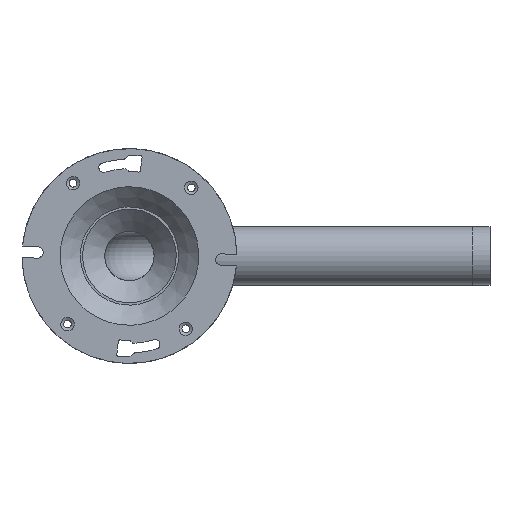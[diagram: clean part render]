
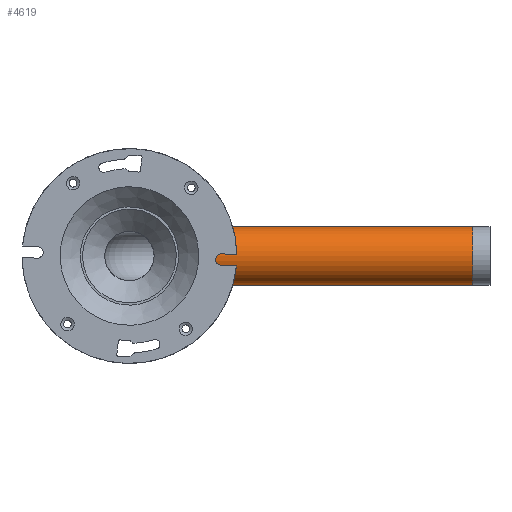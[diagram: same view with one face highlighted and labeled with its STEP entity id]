
A CAD part, front view. The second image highlights one B-rep face of the part: STEP entity #4619.
In plain terms, the highlighted cylindrical face has radius 24.13 mm (diameter 48.26 mm), a full revolution.
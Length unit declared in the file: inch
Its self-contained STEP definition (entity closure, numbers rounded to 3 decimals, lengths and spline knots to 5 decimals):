
#486=LINE('',#11796,#741);
#741=VECTOR('',#6554,0.95);
#898=CYLINDRICAL_SURFACE('',#5275,0.95);
#1157=FACE_OUTER_BOUND('',#1457,.T.);
#1457=EDGE_LOOP('',(#3990,#3991,#3992,#3993));
#1805=CIRCLE('',#5271,0.95);
#1808=CIRCLE('',#5276,0.95);
#2187=VERTEX_POINT('',#11786);
#2190=VERTEX_POINT('',#11795);
#2806=EDGE_CURVE('',#2187,#2187,#1805,.T.);
#2810=EDGE_CURVE('',#2187,#2190,#486,.T.);
#2811=EDGE_CURVE('',#2190,#2190,#1808,.T.);
#3990=ORIENTED_EDGE('',*,*,#2806,.T.);
#3991=ORIENTED_EDGE('',*,*,#2810,.T.);
#3992=ORIENTED_EDGE('',*,*,#2811,.T.);
#3993=ORIENTED_EDGE('',*,*,#2810,.F.);
#4619=ADVANCED_FACE('',(#1157),#898,.T.);
#5271=AXIS2_PLACEMENT_3D('',#11787,#6543,#6544);
#5275=AXIS2_PLACEMENT_3D('',#11794,#6552,#6553);
#5276=AXIS2_PLACEMENT_3D('',#11797,#6555,#6556);
#6543=DIRECTION('center_axis',(0.,0.,-1.));
#6544=DIRECTION('ref_axis',(1.,0.,0.));
#6552=DIRECTION('center_axis',(0.,0.,1.));
#6553=DIRECTION('ref_axis',(1.,0.,0.));
#6554=DIRECTION('',(0.,0.,-1.));
#6555=DIRECTION('center_axis',(0.,0.,1.));
#6556=DIRECTION('ref_axis',(1.,0.,0.));
#11786=CARTESIAN_POINT('',(-0.95,0.,-20.));
#11787=CARTESIAN_POINT('Origin',(0.,0.,-20.));
#11794=CARTESIAN_POINT('Origin',(0.,0.,-30.));
#11795=CARTESIAN_POINT('',(-0.95,0.,-30.));
#11796=CARTESIAN_POINT('',(-0.95,0.,-30.));
#11797=CARTESIAN_POINT('Origin',(0.,0.,-30.));
